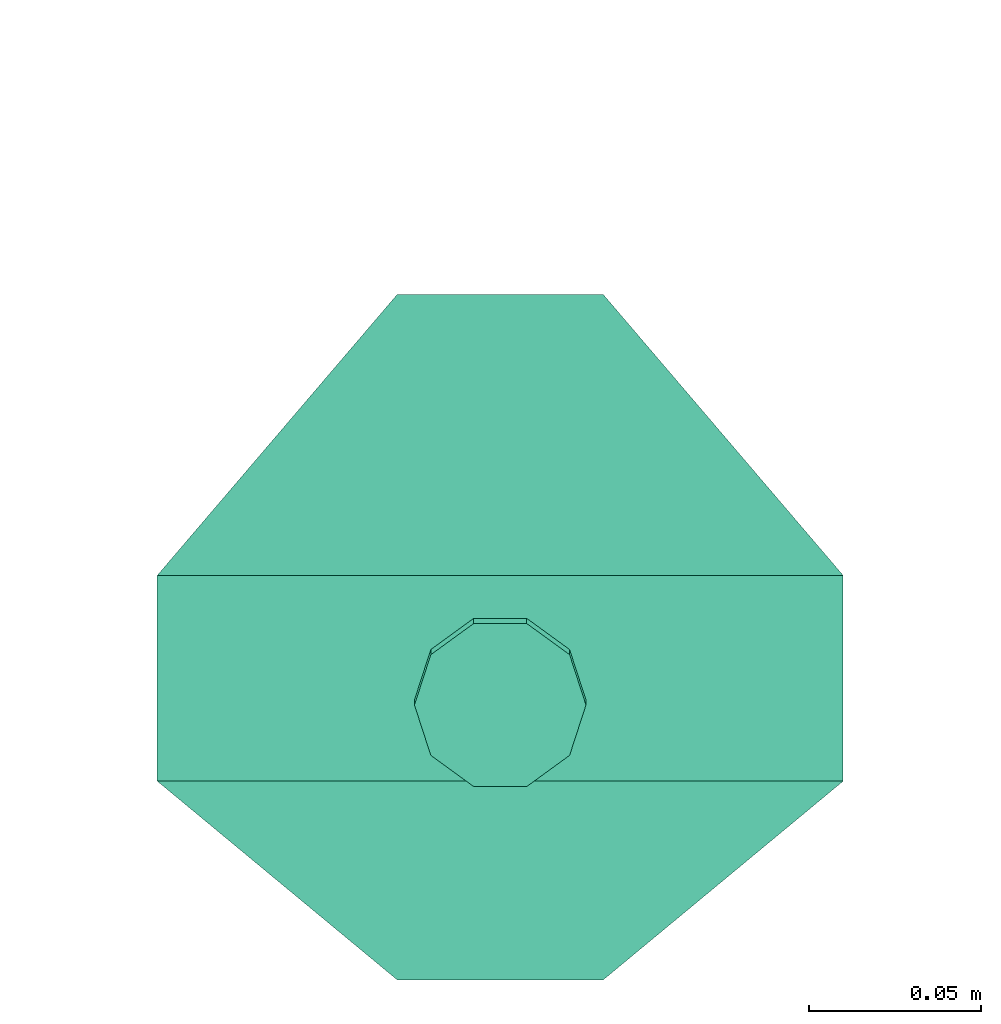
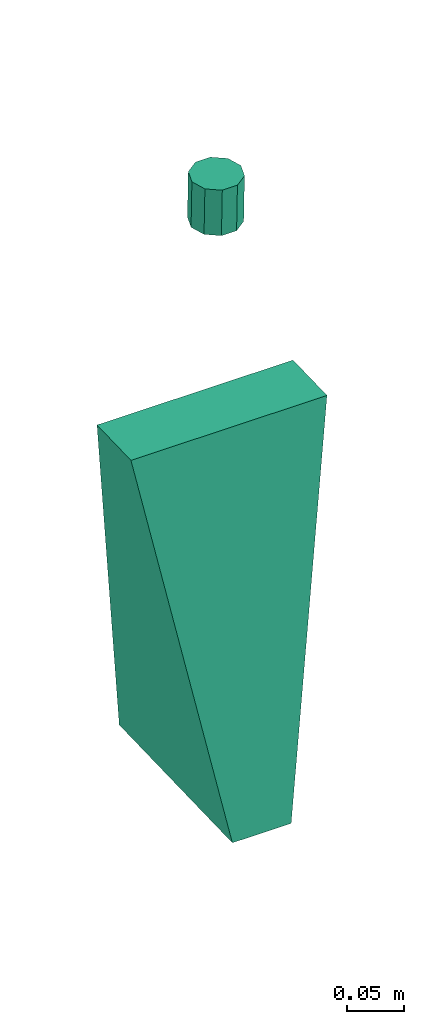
# One storey, part 4 of 4: 1 flow terminal.
"""IFC2X3 building model written with IfcOpenShell, lengths in metres."""

import ifcopenshell
import ifcopenshell.guid

model = None  # the IFC model being written
_history = None  # IfcOwnerHistory: only IFC2X3 demands one
_inside = {}  # id of a spatial element -> (the spatial element, [elements in it])
_under = {}  # id of a project, library or spatial element -> (it, [spatial elements below it])
_declared = {}  # id of a project -> (the project, [libraries it declares])
_typed = {}  # id of a type object -> (the type object, [elements of that type])
_made_of = {}  # id of a material, layer set ... -> (it, [elements and type objects made of it])


def new_model(schema):
    """Start an empty IFC model of exactly this schema.

    Asked for "IFC4X3", IfcOpenShell would pick the latest addendum, in which some entities
    have other attributes; the version numbers below select the first issue.
    IFC2X3 requires an IfcOwnerHistory on every rooted entity: one is made here for all.
    """
    global model, _history
    if schema == "IFC4X3":
        model = ifcopenshell.file(schema_version=(4, 3, 0, 0))
    else:
        model = ifcopenshell.file(schema=schema)
    _inside.clear()
    _under.clear()
    _declared.clear()
    _typed.clear()
    _made_of.clear()
    _history = None
    if model.schema == "IFC2X3":
        org = make("IfcOrganization", Name="unknown")
        user = make(
            "IfcPersonAndOrganization",
            ThePerson=make("IfcPerson", FamilyName="unknown"),
            TheOrganization=org,
        )
        app = make(
            "IfcApplication",
            ApplicationDeveloper=org,
            Version="unknown",
            ApplicationFullName="unknown",
            ApplicationIdentifier="unknown",
        )
        _history = make(
            "IfcOwnerHistory",
            OwningUser=user,
            OwningApplication=app,
            ChangeAction="ADDED",
            CreationDate=0,
        )
    return model


def make(cls, **values):
    """One entity of the class cls with the attributes given. An attribute that is None is left unset."""
    return model.create_entity(
        cls, **{name: value for name, value in values.items() if value is not None}
    )


def entity(cls, *values):
    """Any entity or typed value of the class cls, its attributes in the order of the schema. None: left unset."""
    e = model.create_entity(cls)
    for i, value in enumerate(values):
        if value is not None:
            e[i] = value
    return e


def rooted(cls, **values):
    """An entity with a GlobalId (a new one), such as an element, a storey or a relation."""
    return make(cls, GlobalId=ifcopenshell.guid.new(), OwnerHistory=_history, **values)


def si_unit(unit_type, name, prefix=None):
    """IfcSIUnit, for example si_unit("LENGTHUNIT", "METRE", prefix="MILLI")."""
    return make("IfcSIUnit", UnitType=unit_type, Prefix=prefix, Name=name)


def converted_unit(unit_type, name, factor, base, dimensions=None, offset=None):
    """IfcConversionBasedUnit, such as the inch: factor (a typed value) times the base unit."""
    return make(
        "IfcConversionBasedUnit"
        if offset is None
        else "IfcConversionBasedUnitWithOffset",
        ConversionOffset=offset,
        Dimensions=None
        if dimensions is None
        else entity("IfcDimensionalExponents", *dimensions),
        UnitType=unit_type,
        Name=name,
        ConversionFactor=make(
            "IfcMeasureWithUnit", ValueComponent=factor, UnitComponent=base
        ),
    )


def derived_unit(unit_type, elements):
    """IfcDerivedUnit: a product of units, each with its exponent."""
    return make(
        "IfcDerivedUnit",
        Elements=[
            make("IfcDerivedUnitElement", Unit=unit, Exponent=power)
            for unit, power in elements
        ],
        UnitType=unit_type,
    )


def assignment(units):
    """IfcUnitAssignment: the units of a project."""
    return None if units is None else make("IfcUnitAssignment", Units=units)


def point(xyz):
    """IfcCartesianPoint."""
    return None if xyz is None else make("IfcCartesianPoint", Coordinates=xyz)


def direction(xyz):
    """IfcDirection."""
    return None if xyz is None else make("IfcDirection", DirectionRatios=xyz)


def frame(location, z_axis=None, x_axis=None):
    """IfcAxis2Placement3D, a coordinate frame: its origin and axes. An axis left out is left unset."""
    return make(
        "IfcAxis2Placement3D",
        Location=point(location),
        Axis=direction(z_axis),
        RefDirection=direction(x_axis),
    )


def origin():
    """The frame at (0, 0, 0) with its axes left unset."""
    return frame((0.0, 0.0, 0.0))


def place(relative_to, where):
    """IfcLocalPlacement: puts the frame where relative to a parent placement (None: the world)."""
    return make(
        "IfcLocalPlacement", PlacementRelTo=relative_to, RelativePlacement=where
    )


def context(
    kind, dimensions, precision=None, world=None, true_north=None, identifier=None
):
    """IfcGeometricRepresentationContext, for example the 3D "Model" context."""
    return make(
        "IfcGeometricRepresentationContext",
        ContextIdentifier=identifier,
        ContextType=kind,
        CoordinateSpaceDimension=dimensions,
        Precision=precision,
        WorldCoordinateSystem=world,
        TrueNorth=true_north,
    )


def subcontext(parent, identifier, kind, view, scale=None):
    """IfcGeometricRepresentationSubContext, for example "Body" below "Model"."""
    return make(
        "IfcGeometricRepresentationSubContext",
        ContextIdentifier=identifier,
        ContextType=kind,
        ParentContext=parent,
        TargetScale=scale,
        TargetView=view,
    )


def project(units=None, contexts=None):
    """IfcProject with its units and contexts."""
    return rooted(
        "IfcProject",
        Name="project",
        RepresentationContexts=contexts,
        UnitsInContext=assignment(units),
    )


def spatial(cls, under=None, at=None, **own):
    """A site, building, storey or space (cls), placed at a placement, below another one or the project."""
    s = rooted(cls, ObjectPlacement=at, **own)
    if under is not None:
        _under.setdefault(under.id(), (under, []))[1].append(s)
    return s


def faces_of(points, faces, orient=None, outer=None):
    """IfcFace entities. A face is a list of loops; a loop is a list of indices into points, from 0.

    orient and outer hold one flag for each loop. By default every Orientation is true, the
    first loop of a face is its IfcFaceOuterBound and the others are IfcFaceBound.
    """
    made = []
    for i, loops in enumerate(faces):
        bounds = []
        for j, loop in enumerate(loops):
            is_outer = j == 0 if outer is None else outer[i][j]
            bounds.append(
                make(
                    "IfcFaceOuterBound" if is_outer else "IfcFaceBound",
                    Bound=make("IfcPolyLoop", Polygon=[points[k] for k in loop]),
                    Orientation=True if orient is None else orient[i][j],
                )
            )
        made.append(make("IfcFace", Bounds=bounds))
    return made


def faceted_brep(points, faces, orient=None, outer=None, voids=None):
    """IfcFacetedBrep: a solid bounded by flat faces; with voids (closed shells), ...WithVoids."""
    shared = [point(p) for p in points]
    hull = make("IfcClosedShell", CfsFaces=faces_of(shared, faces, orient, outer))
    if voids is None:
        return make("IfcFacetedBrep", Outer=hull)
    return make(
        "IfcFacetedBrepWithVoids",
        Outer=hull,
        Voids=[
            make(cls, CfsFaces=faces_of(shared, fs, o, b)) for cls, fs, o, b in voids
        ],
    )


def shape(context_of_items, identifier, shape_type, items):
    """IfcShapeRepresentation: the items that make up one representation, for example the "Body"."""
    return make(
        "IfcShapeRepresentation",
        ContextOfItems=context_of_items,
        RepresentationIdentifier=identifier,
        RepresentationType=shape_type,
        Items=items,
    )


def source(mapping_origin, context_of_items, identifier, shape_type, items):
    """IfcRepresentationMap: a shape defined once, which mapped items show again and again."""
    return make(
        "IfcRepresentationMap",
        MappingOrigin=mapping_origin,
        MappedRepresentation=shape(context_of_items, identifier, shape_type, items),
    )


def transform(
    local_origin,
    x_axis=None,
    y_axis=None,
    z_axis=None,
    scale=None,
    scale2=None,
    scale3=None,
    uniform=True,
):
    """IfcCartesianTransformationOperator3D, or its non-uniform kind. x_axis, y_axis, z_axis: its Axis1, 2, 3."""
    if uniform:
        return make(
            "IfcCartesianTransformationOperator3D",
            Axis1=direction(x_axis),
            Axis2=direction(y_axis),
            LocalOrigin=point(local_origin),
            Scale=scale,
            Axis3=direction(z_axis),
        )
    return make(
        "IfcCartesianTransformationOperator3DnonUniform",
        Axis1=direction(x_axis),
        Axis2=direction(y_axis),
        LocalOrigin=point(local_origin),
        Scale=scale,
        Axis3=direction(z_axis),
        Scale2=scale2,
        Scale3=scale3,
    )


def mapped(mapping_source, mapping_target):
    """IfcMappedItem: shows the shape of a source again, moved by a transform."""
    return make(
        "IfcMappedItem", MappingSource=mapping_source, MappingTarget=mapping_target
    )


def material(Name=None, Category=None):
    """IfcMaterial."""
    return make("IfcMaterial", Name=Name, Category=Category)


def made_of(thing, what):
    """Note that an element or type object is made of a material, layer set ...; save() writes the relation."""
    if what is not None:
        _made_of.setdefault(what.id(), (what, []))[1].append(thing)
    return thing


def type_object(cls, material=None, **own):
    """A type object (cls), such as IfcWallType, which elements share."""
    return made_of(rooted(cls, **own), material)


def type_shapes(of_type, sources):
    """Give a type object the sources (RepresentationMaps) that its elements show as mapped items."""
    of_type.RepresentationMaps = sources


def element(
    cls,
    number,
    at=None,
    inside=None,
    cuts=None,
    type_object=None,
    material=None,
    context=None,
    identifier="Body",
    shape_type=None,
    held_by="IfcProductDefinitionShape",
    body=None,
    shapes=None,
    **own,
):
    """One element of the class cls, such as IfcWall. Its Tag is "e" and its number.

    at: its placement. inside: the storey or other place that contains it. cuts: it is an
    opening in that element (IfcRelVoidsElement). A single representation is given by context,
    identifier, shape_type and body (its items); several are given by shapes. held_by: the class
    of the entity that holds the representations. save() writes the other relations.
    """
    e = rooted(cls, Tag="e%d" % number, ObjectPlacement=at, **own)
    if body is not None:
        shapes = [shape(context, identifier, shape_type, body)]
    if shapes is not None:
        e.Representation = make(held_by, Representations=shapes)
    if inside is not None:
        _inside.setdefault(inside.id(), (inside, []))[1].append(e)
    if cuts is not None:
        rooted(
            "IfcRelVoidsElement", RelatingBuildingElement=cuts, RelatedOpeningElement=e
        )
    if type_object is not None:
        _typed.setdefault(type_object.id(), (type_object, []))[1].append(e)
    return made_of(e, material)


def aggregate(whole, parts):
    """IfcRelAggregates: a whole, such as a stair, and the parts it consists of."""
    return rooted("IfcRelAggregates", RelatingObject=whole, RelatedObjects=parts)


def save(model, path):
    """Write the relations noted so far, then the file.

    IfcRelAggregates (storeys below a building ...), IfcRelContainedInSpatialStructure (elements
    in a storey), IfcRelDefinesByType, IfcRelAssociatesMaterial and IfcRelDeclares: one each for
    every whole, place, type object, material and project.
    """
    for whole, parts in _under.values():
        aggregate(whole, parts)
    for where, things in _inside.values():
        rooted(
            "IfcRelContainedInSpatialStructure",
            RelatedElements=things,
            RelatingStructure=where,
        )
    for kind, things in _typed.values():
        rooted("IfcRelDefinesByType", RelatedObjects=things, RelatingType=kind)
    for what, things in _made_of.values():
        rooted("IfcRelAssociatesMaterial", RelatedObjects=things, RelatingMaterial=what)
    for by, libraries in _declared.values():
        rooted("IfcRelDeclares", RelatingContext=by, RelatedDefinitions=libraries)
    model.write(path)


model = new_model("IFC2X3")

# Units and contexts
model_context = context("Model", 3, precision=1e-05, world=origin(), true_north=direction((6.123031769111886e-17, 1.0)))
body_context = subcontext(model_context, "Body", "Model", "MODEL_VIEW")
ifc_project = project(units=[si_unit("LENGTHUNIT", "METRE"), si_unit("AREAUNIT", "SQUARE_METRE"), converted_unit("PLANEANGLEUNIT", "DEGREE", entity("IfcPlaneAngleMeasure", 0.017453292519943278), si_unit("PLANEANGLEUNIT", "RADIAN"), dimensions=[0, 0, 0, 0, 0, 0, 0]), derived_unit("THERMALTRANSMITTANCEUNIT", [(si_unit("MASSUNIT", "GRAM", prefix="KILO"), 1), (si_unit("THERMODYNAMICTEMPERATUREUNIT", "KELVIN"), -1), (si_unit("TIMEUNIT", "SECOND"), -3)])], contexts=[model_context])

# Site, building, storey
site_placement = place(None, origin())
site = spatial("IfcSite", under=ifc_project, at=site_placement, Name="Default", CompositionType="ELEMENT")
building_placement = place(site_placement, origin())
building = spatial("IfcBuilding", under=site, at=building_placement, CompositionType="ELEMENT")
storey_placement = place(building_placement, frame((0.0, 0.0, -4.0)))
storey = spatial("IfcBuildingStorey", under=building, at=storey_placement, Name="Fondations", CompositionType="ELEMENT", Elevation=-3.999999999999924)

# Flow terminal
ifc_material = material(Name="ARC - Eq Elec - Blanc")
light_fixture_type = type_object("IfcLightFixtureType", Name="Eq_Elec_Luminaire_Trapezoïdal_LED_Suspension:Eq_Elec_Luminaire_Trapezoïdal_LED_Suspension_200x60mm", PredefinedType="NOTDEFINED", material=ifc_material)
shared_shape = source(origin(), body_context, "Body", "Brep", [
    faceted_brep([(0.09500000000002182, -0.02500000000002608, 0.2700000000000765), (-0.09499999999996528, -0.025000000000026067, 0.27000000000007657), (-0.02499999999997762, -0.0950000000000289, 0.660000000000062), (0.025000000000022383, -0.0950000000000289, 0.6600000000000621), (-0.09499999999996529, 0.024999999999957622, 0.2700000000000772), (-0.024999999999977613, 0.09499999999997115, 0.6600000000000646), (0.1000000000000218, 0.029999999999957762, 0.26000000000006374), (0.1000000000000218, -0.030000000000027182, 0.2600000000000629), (-0.09999999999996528, -0.030000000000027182, 0.2600000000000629), (-0.09999999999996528, 0.029999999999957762, 0.26000000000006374), (0.025000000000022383, 0.09499999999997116, 0.6600000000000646), (0.03000000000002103, 0.09999999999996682, 0.6600000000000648), (-0.029999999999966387, 0.0999999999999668, 0.6600000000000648), (-0.029999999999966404, -0.10000000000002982, 0.6600000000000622), (0.03000000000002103, -0.10000000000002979, 0.660000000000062), (0.09500000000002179, 0.024999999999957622, 0.2700000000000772)], [[[0, 1, 2, 3]], [[1, 4, 5, 2]], [[6, 7, 8, 9]], [[2, 5, 10, 3], [11, 12, 13, 14]], [[12, 11, 6, 9]], [[13, 12, 9, 8]], [[14, 13, 8, 7]], [[11, 14, 7, 6]], [[4, 1, 0, 15]], [[15, 0, 3, 10]], [[4, 15, 10, 5]]], outer=[[True], [True], [True], [False, True], [True], [True], [True], [True], [True], [True], [True]]),
    faceted_brep([(0.0, 0.0, 0.050000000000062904), (-0.007725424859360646, 0.02377641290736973, 0.05000000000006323), (-0.013975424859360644, 0.019235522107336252, 0.05000000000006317), (-0.020225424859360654, 0.01469463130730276, 0.050000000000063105), (-0.022612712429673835, 0.007347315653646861, 0.05000000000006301), (-0.02499999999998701, 0.0, 0.050000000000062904), (-0.022684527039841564, -0.007126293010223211, 0.050000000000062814), (0.0, 0.023776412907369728, 0.05000000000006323), (0.007725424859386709, 0.023776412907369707, 0.05000000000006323), (0.013975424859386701, 0.0192355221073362, 0.05000000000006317), (0.02022542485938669, 0.014694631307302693, 0.050000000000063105), (0.022612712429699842, 0.007347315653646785, 0.05000000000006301), (0.025000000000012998, 0.0, 0.050000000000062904), (-0.020225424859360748, -0.014694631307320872, 0.0500000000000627), (-0.013975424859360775, -0.0192355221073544, 0.05000000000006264), (-0.007725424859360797, -0.023776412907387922, 0.05000000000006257), (0.0, -0.023776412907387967, 0.05000000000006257), (0.02261271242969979, -0.007347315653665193, 0.0500000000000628), (0.020225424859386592, -0.014694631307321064, 0.0500000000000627), (0.013975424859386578, -0.019235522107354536, 0.05000000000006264), (0.007725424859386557, -0.023776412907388, 0.05000000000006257), (0.0, 0.0, 0.0), (-0.020225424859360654, 0.01469463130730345, 0.0), (-0.013975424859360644, 0.019235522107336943, 0.0), (-0.007725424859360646, 0.023776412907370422, 0.0), (0.0, 0.023776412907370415, 0.0), (-0.02268452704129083, 0.007126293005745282, 0.0), (-0.02499999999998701, 0.0, 0.0), (0.007725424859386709, 0.023776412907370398, 0.0), (0.013975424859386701, 0.01923552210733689, 0.0), (0.02022542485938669, 0.014694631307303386, 0.0), (0.022612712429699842, 0.007347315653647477, 0.0), (0.025000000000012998, 0.0, 0.0), (0.022684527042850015, -0.007126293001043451, 0.0), (-0.022612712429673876, -0.007347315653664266, 0.0), (-0.020225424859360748, -0.01469463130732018, 0.0), (-0.013975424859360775, -0.019235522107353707, 0.0), (-0.007725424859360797, -0.02377641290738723, 0.0), (0.020225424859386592, -0.014694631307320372, 0.0), (0.013975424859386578, -0.019235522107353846, 0.0), (0.007725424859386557, -0.023776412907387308, 0.0), (0.0, -0.023776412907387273, 0.0)], [[[0, 1, 2]], [[0, 2, 3]], [[0, 3, 4]], [[0, 4, 5]], [[0, 5, 6]], [[0, 7, 1]], [[0, 8, 7]], [[0, 9, 8]], [[0, 10, 9]], [[0, 11, 10]], [[0, 12, 11]], [[0, 6, 13]], [[0, 13, 14]], [[0, 14, 15]], [[0, 15, 16]], [[0, 17, 12]], [[0, 18, 17]], [[0, 19, 18]], [[0, 20, 19]], [[0, 16, 20]], [[21, 22, 23]], [[21, 23, 24]], [[21, 24, 25]], [[21, 26, 22]], [[21, 27, 26]], [[21, 25, 28]], [[21, 28, 29]], [[21, 29, 30]], [[21, 30, 31]], [[21, 31, 32]], [[21, 32, 33]], [[21, 34, 27]], [[21, 35, 34]], [[21, 36, 35]], [[21, 37, 36]], [[21, 33, 38]], [[21, 38, 39]], [[21, 39, 40]], [[21, 40, 41]], [[21, 41, 37]], [[8, 9, 10, 30, 29, 28]], [[12, 32, 31, 30, 10, 11]], [[1, 7, 8, 28, 25, 24]], [[4, 3, 22, 26, 27, 5]], [[24, 23, 22, 3, 2, 1]], [[13, 6, 5, 27, 34, 35]], [[33, 32, 12, 17, 18, 38]], [[35, 36, 37, 15, 14, 13]], [[20, 16, 15, 37, 41, 40]], [[40, 39, 38, 18, 19, 20]]]),
])
type_shapes(light_fixture_type, [shared_shape])
flow_terminal_placement = place(storey_placement, frame((20.805233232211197, 137.46747131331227, 7.3693544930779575), z_axis=(0.0, 0.029986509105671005, -0.9995503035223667), x_axis=(1.0, 0.0, 0.0)))
element("IfcFlowTerminal", 1, at=flow_terminal_placement, inside=storey, type_object=light_fixture_type, material=ifc_material, Name="Eq_Elec_Luminaire_Trapezoïdal_LED_Suspension:Eq_Elec_Luminaire_Trapezoïdal_LED_Suspension_200x60mm", ObjectType="Eq_Elec_Luminaire_Trapezoïdal_LED_Suspension:Eq_Elec_Luminaire_Trapezoïdal_LED_Suspension_200x60mm", context=body_context, shape_type="MappedRepresentation", body=[
    mapped(shared_shape, transform((0.0, 0.0, 0.0), scale=1.0)),
])

save(model, "model.ifc")
